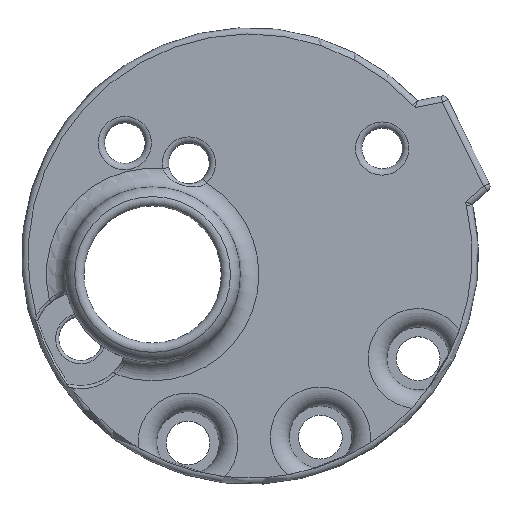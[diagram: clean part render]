
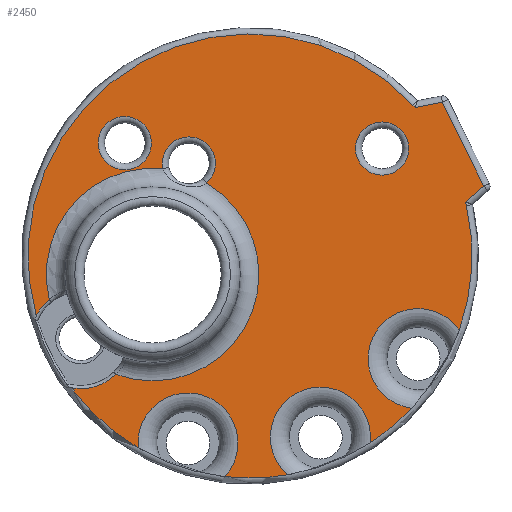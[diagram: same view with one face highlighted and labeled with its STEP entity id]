
A CAD part, top view. The second image highlights one B-rep face of the part: STEP entity #2450.
In plain terms, the highlighted planar face has unit normal (0, 0, 1).
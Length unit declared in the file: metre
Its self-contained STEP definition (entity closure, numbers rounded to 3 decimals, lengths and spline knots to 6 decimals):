
#237=LINE('',#4229,#418);
#238=LINE('',#4231,#419);
#239=LINE('',#4233,#420);
#240=LINE('',#4235,#421);
#241=LINE('',#4237,#422);
#418=VECTOR('',#3271,1.);
#419=VECTOR('',#3272,1.);
#420=VECTOR('',#3273,1.);
#421=VECTOR('',#3274,1.);
#422=VECTOR('',#3275,1.);
#808=ORIENTED_EDGE('',*,*,#1422,.T.);
#809=ORIENTED_EDGE('',*,*,#1423,.T.);
#810=ORIENTED_EDGE('',*,*,#1397,.T.);
#811=ORIENTED_EDGE('',*,*,#1424,.T.);
#812=ORIENTED_EDGE('',*,*,#1394,.T.);
#813=ORIENTED_EDGE('',*,*,#1425,.T.);
#814=ORIENTED_EDGE('',*,*,#1391,.T.);
#815=ORIENTED_EDGE('',*,*,#1426,.T.);
#816=ORIENTED_EDGE('',*,*,#1427,.T.);
#817=ORIENTED_EDGE('',*,*,#1428,.T.);
#818=ORIENTED_EDGE('',*,*,#1429,.T.);
#819=ORIENTED_EDGE('',*,*,#1430,.T.);
#820=ORIENTED_EDGE('',*,*,#1431,.T.);
#821=ORIENTED_EDGE('',*,*,#1432,.T.);
#822=ORIENTED_EDGE('',*,*,#1433,.T.);
#823=ORIENTED_EDGE('',*,*,#1388,.T.);
#824=ORIENTED_EDGE('',*,*,#1378,.T.);
#825=ORIENTED_EDGE('',*,*,#1387,.T.);
#826=ORIENTED_EDGE('',*,*,#1382,.T.);
#827=ORIENTED_EDGE('',*,*,#1380,.T.);
#1378=EDGE_CURVE('',#1696,#1697,#1841,.F.);
#1380=EDGE_CURVE('',#1699,#1699,#1843,.F.);
#1382=EDGE_CURVE('',#1701,#1701,#1845,.F.);
#1387=EDGE_CURVE('',#1697,#1706,#1849,.F.);
#1388=EDGE_CURVE('',#1707,#1696,#1850,.F.);
#1391=EDGE_CURVE('',#1709,#1708,#1851,.F.);
#1394=EDGE_CURVE('',#1711,#1710,#1852,.F.);
#1397=EDGE_CURVE('',#1713,#1712,#1853,.F.);
#1422=EDGE_CURVE('',#1706,#1724,#1867,.F.);
#1423=EDGE_CURVE('',#1724,#1713,#1868,.T.);
#1424=EDGE_CURVE('',#1712,#1711,#1869,.T.);
#1425=EDGE_CURVE('',#1710,#1709,#1870,.T.);
#1426=EDGE_CURVE('',#1708,#1725,#1871,.T.);
#1427=EDGE_CURVE('',#1725,#1726,#237,.T.);
#1428=EDGE_CURVE('',#1726,#1727,#238,.F.);
#1429=EDGE_CURVE('',#1727,#1728,#239,.T.);
#1430=EDGE_CURVE('',#1728,#1729,#240,.F.);
#1431=EDGE_CURVE('',#1729,#1730,#241,.T.);
#1432=EDGE_CURVE('',#1730,#1731,#1872,.T.);
#1433=EDGE_CURVE('',#1731,#1707,#1873,.F.);
#1696=VERTEX_POINT('',#4049);
#1697=VERTEX_POINT('',#4057);
#1699=VERTEX_POINT('',#4074);
#1701=VERTEX_POINT('',#4079);
#1706=VERTEX_POINT('',#4095);
#1707=VERTEX_POINT('',#4098);
#1708=VERTEX_POINT('',#4113);
#1709=VERTEX_POINT('',#4115);
#1710=VERTEX_POINT('',#4131);
#1711=VERTEX_POINT('',#4133);
#1712=VERTEX_POINT('',#4149);
#1713=VERTEX_POINT('',#4151);
#1724=VERTEX_POINT('',#4223);
#1725=VERTEX_POINT('',#4228);
#1726=VERTEX_POINT('',#4230);
#1727=VERTEX_POINT('',#4232);
#1728=VERTEX_POINT('',#4234);
#1729=VERTEX_POINT('',#4236);
#1730=VERTEX_POINT('',#4238);
#1731=VERTEX_POINT('',#4240);
#1841=CIRCLE('',#2663,0.00425);
#1843=CIRCLE('',#2666,0.00425);
#1845=CIRCLE('',#2669,0.00425);
#1849=CIRCLE('',#2675,0.017);
#1850=CIRCLE('',#2676,0.017);
#1851=CIRCLE('',#2678,0.008);
#1852=CIRCLE('',#2680,0.008);
#1853=CIRCLE('',#2682,0.008);
#1867=CIRCLE('',#2704,0.008);
#1868=CIRCLE('',#2705,0.0355);
#1869=CIRCLE('',#2706,0.0355);
#1870=CIRCLE('',#2707,0.0355);
#1871=CIRCLE('',#2708,0.0355);
#1872=CIRCLE('',#2709,0.0355);
#1873=CIRCLE('',#2710,0.008);
#2002=EDGE_LOOP('',(#808,#809,#810,#811,#812,#813,#814,#815,#816,#817,#818,
#819,#820,#821,#822,#823,#824,#825));
#2003=EDGE_LOOP('',(#826));
#2004=EDGE_LOOP('',(#827));
#2201=FACE_BOUND('',#2002,.T.);
#2202=FACE_BOUND('',#2003,.T.);
#2203=FACE_BOUND('',#2004,.T.);
#2345=PLANE('',#2703);
#2450=ADVANCED_FACE('',(#2201,#2202,#2203),#2345,.T.);
#2663=AXIS2_PLACEMENT_3D('',#4070,#3176,#3177);
#2666=AXIS2_PLACEMENT_3D('',#4073,#3182,#3183);
#2669=AXIS2_PLACEMENT_3D('',#4078,#3188,#3189);
#2675=AXIS2_PLACEMENT_3D('',#4096,#3200,#3201);
#2676=AXIS2_PLACEMENT_3D('',#4097,#3202,#3203);
#2678=AXIS2_PLACEMENT_3D('',#4114,#3206,#3207);
#2680=AXIS2_PLACEMENT_3D('',#4132,#3210,#3211);
#2682=AXIS2_PLACEMENT_3D('',#4150,#3214,#3215);
#2703=AXIS2_PLACEMENT_3D('',#4221,#3259,#3260);
#2704=AXIS2_PLACEMENT_3D('',#4222,#3261,#3262);
#2705=AXIS2_PLACEMENT_3D('',#4224,#3263,#3264);
#2706=AXIS2_PLACEMENT_3D('',#4225,#3265,#3266);
#2707=AXIS2_PLACEMENT_3D('',#4226,#3267,#3268);
#2708=AXIS2_PLACEMENT_3D('',#4227,#3269,#3270);
#2709=AXIS2_PLACEMENT_3D('',#4239,#3276,#3277);
#2710=AXIS2_PLACEMENT_3D('',#4241,#3278,#3279);
#3176=DIRECTION('',(0.,0.,1.));
#3177=DIRECTION('',(1.,0.,0.));
#3182=DIRECTION('',(0.,0.,1.));
#3183=DIRECTION('',(1.,0.,0.));
#3188=DIRECTION('',(0.,0.,1.));
#3189=DIRECTION('',(1.,0.,0.));
#3200=DIRECTION('',(0.,0.,1.));
#3201=DIRECTION('',(1.,0.,0.));
#3202=DIRECTION('',(0.,0.,1.));
#3203=DIRECTION('',(1.,0.,0.));
#3206=DIRECTION('',(0.,0.,1.));
#3207=DIRECTION('',(1.,0.,0.));
#3210=DIRECTION('',(0.,0.,1.));
#3211=DIRECTION('',(1.,0.,0.));
#3214=DIRECTION('',(0.,0.,1.));
#3215=DIRECTION('',(1.,0.,0.));
#3259=DIRECTION('',(0.,0.,1.));
#3260=DIRECTION('',(1.,0.,0.));
#3261=DIRECTION('',(0.,0.,1.));
#3262=DIRECTION('',(1.,0.,0.));
#3263=DIRECTION('',(0.,0.,1.));
#3264=DIRECTION('',(1.,0.,0.));
#3265=DIRECTION('',(0.,0.,1.));
#3266=DIRECTION('',(1.,0.,0.));
#3267=DIRECTION('',(0.,0.,1.));
#3268=DIRECTION('',(1.,0.,0.));
#3269=DIRECTION('',(0.,0.,1.));
#3270=DIRECTION('',(1.,0.,0.));
#3271=DIRECTION('',(-0.199,0.98,0.));
#3272=DIRECTION('',(-0.752,-0.659,0.));
#3273=DIRECTION('',(-0.441,0.897,0.));
#3274=DIRECTION('',(0.981,0.194,0.));
#3275=DIRECTION('',(-0.689,0.725,0.));
#3276=DIRECTION('',(0.,0.,1.));
#3277=DIRECTION('',(1.,0.,0.));
#3278=DIRECTION('',(0.,0.,1.));
#3279=DIRECTION('',(1.,0.,0.));
#4049=CARTESIAN_POINT('',(-0.087403,0.021395,0.0116));
#4057=CARTESIAN_POINT('',(-0.080373,0.019097,0.0116));
#4070=CARTESIAN_POINT('',(-0.083237,0.022237,0.0116));
#4073=CARTESIAN_POINT('',(-0.093487,0.025487,0.0116));
#4074=CARTESIAN_POINT('',(-0.089237,0.025487,0.0116));
#4078=CARTESIAN_POINT('',(-0.052343,0.02462,0.0116));
#4079=CARTESIAN_POINT('',(-0.048093,0.02462,0.0116));
#4095=CARTESIAN_POINT('',(-0.094929,-0.011475,0.0116));
#4096=CARTESIAN_POINT('',(-0.089043,0.004474,0.0116));
#4097=CARTESIAN_POINT('',(-0.089043,0.004474,0.0116));
#4098=CARTESIAN_POINT('',(-0.105561,0.000455,0.0116));
#4113=CARTESIAN_POINT('',(-0.040006,-0.004409,0.0116));
#4114=CARTESIAN_POINT('',(-0.046582,-0.008966,0.0116));
#4115=CARTESIAN_POINT('',(-0.04763,-0.016897,0.0116));
#4131=CARTESIAN_POINT('',(-0.054263,-0.022409,0.0116));
#4132=CARTESIAN_POINT('',(-0.062212,-0.021511,0.0116));
#4133=CARTESIAN_POINT('',(-0.067468,-0.027542,0.0116));
#4149=CARTESIAN_POINT('',(-0.077462,-0.027827,0.0116));
#4150=CARTESIAN_POINT('',(-0.083386,-0.02245,0.0116));
#4151=CARTESIAN_POINT('',(-0.091349,-0.02322,0.0116));
#4221=CARTESIAN_POINT('',(-0.073468,0.007448,0.0116));
#4222=CARTESIAN_POINT('',(-0.100543,-0.005776,0.0116));
#4223=CARTESIAN_POINT('',(-0.102028,-0.013637,0.0116));
#4224=CARTESIAN_POINT('',(-0.073468,0.007448,0.0116));
#4225=CARTESIAN_POINT('',(-0.073468,0.007448,0.0116));
#4226=CARTESIAN_POINT('',(-0.073468,0.007448,0.0116));
#4227=CARTESIAN_POINT('',(-0.073468,0.007448,0.0116));
#4228=CARTESIAN_POINT('',(-0.038887,0.015476,0.0116));
#4229=CARTESIAN_POINT('',(-0.03912,0.01662,0.0116));
#4230=CARTESIAN_POINT('',(-0.039006,0.016061,0.0116));
#4231=CARTESIAN_POINT('',(-0.062788,-0.004754,0.0116));
#4232=CARTESIAN_POINT('',(-0.036098,0.018606,0.0116));
#4233=CARTESIAN_POINT('',(-0.038959,0.024423,0.0116));
#4234=CARTESIAN_POINT('',(-0.042704,0.032035,0.0116));
#4235=CARTESIAN_POINT('',(-0.076991,0.02525,0.0116));
#4236=CARTESIAN_POINT('',(-0.047047,0.031175,0.0116));
#4237=CARTESIAN_POINT('',(-0.04743,0.031578,0.0116));
#4238=CARTESIAN_POINT('',(-0.047434,0.031583,0.0116));
#4239=CARTESIAN_POINT('',(-0.073468,0.007448,0.0116));
#4240=CARTESIAN_POINT('',(-0.107656,-0.002114,0.0116));
#4241=CARTESIAN_POINT('',(-0.100543,-0.005776,0.0116));
